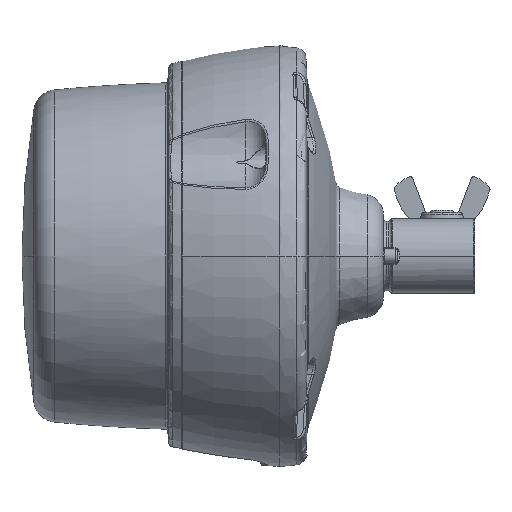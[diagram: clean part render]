
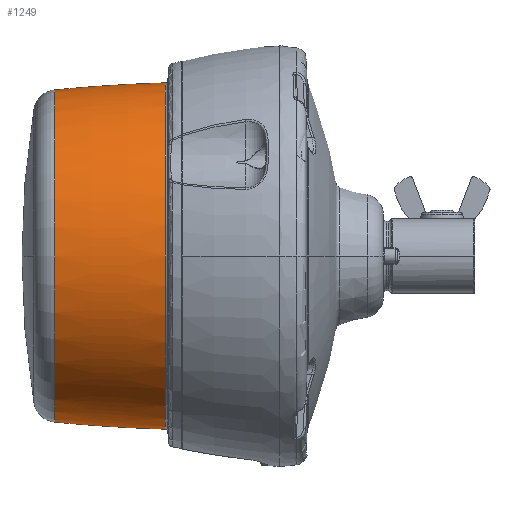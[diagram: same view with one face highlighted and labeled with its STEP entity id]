
A CAD part, left-side view. The second image highlights one B-rep face of the part: STEP entity #1249.
In plain terms, the highlighted toroidal (fillet/blend) face has major radius 533.287 mm and minor radius 600 mm.
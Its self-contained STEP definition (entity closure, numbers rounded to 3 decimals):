
#1249 = ADVANCED_FACE ( 'NONE', ( #44480 ), #20706, .T. ) ;
#1423 = ORIENTED_EDGE ( 'NONE', *, *, #2818, .T. ) ;
#2818 = EDGE_CURVE ( 'NONE', #42144, #48541, #22553, .T. ) ;
#9869 = CARTESIAN_POINT ( 'NONE',  ( 0., -13.197, -533.287 ) ) ;
#10810 = EDGE_CURVE ( 'NONE', #25550, #38830, #50640, .T. ) ;
#12825 = CARTESIAN_POINT ( 'NONE',  ( 0., 46.183, -63.768 ) ) ;
#14059 = CARTESIAN_POINT ( 'NONE',  ( 0., -13.197, 533.287 ) ) ;
#14065 = DIRECTION ( 'NONE',  ( 0., 0., -1. ) ) ;
#15737 = DIRECTION ( 'NONE',  ( 0., 1., 0. ) ) ;
#18047 = CIRCLE ( 'NONE', #40153, 600. ) ;
#18347 = DIRECTION ( 'NONE',  ( 0., 0., 1. ) ) ;
#19164 = CARTESIAN_POINT ( 'NONE',  ( 0., 46.183, 0. ) ) ;
#20706 = TOROIDAL_SURFACE ( 'NONE', #54370, -533.287, 600. ) ;
#21682 = DIRECTION ( 'NONE',  ( 0., 0., -1. ) ) ;
#22553 = CIRCLE ( 'NONE', #50286, 66.475 ) ;
#22893 = EDGE_CURVE ( 'NONE', #38830, #42144, #33310, .T. ) ;
#23461 = DIRECTION ( 'NONE',  ( 0., 0., -1. ) ) ;
#25550 = VERTEX_POINT ( 'NONE', #41704 ) ;
#25589 = DIRECTION ( 'NONE',  ( 0., -1., 0. ) ) ;
#28477 = ORIENTED_EDGE ( 'NONE', *, *, #22893, .T. ) ;
#29106 = ORIENTED_EDGE ( 'NONE', *, *, #42681, .F. ) ;
#29894 = AXIS2_PLACEMENT_3D ( 'NONE', #19164, #48786, #23461 ) ;
#30420 = CARTESIAN_POINT ( 'NONE',  ( 0., 3.71, 66.475 ) ) ;
#33310 = CIRCLE ( 'NONE', #53424, 600. ) ;
#38218 = CARTESIAN_POINT ( 'NONE',  ( 0., 3.71, -66.475 ) ) ;
#38830 = VERTEX_POINT ( 'NONE', #12825 ) ;
#39433 = DIRECTION ( 'NONE',  ( 1., 0., 0. ) ) ;
#40153 = AXIS2_PLACEMENT_3D ( 'NONE', #9869, #39433, #14065 ) ;
#41096 = CARTESIAN_POINT ( 'NONE',  ( 0., 3.71, 0. ) ) ;
#41704 = CARTESIAN_POINT ( 'NONE',  ( 0., 46.183, 63.768 ) ) ;
#42144 = VERTEX_POINT ( 'NONE', #38218 ) ;
#42681 = EDGE_CURVE ( 'NONE', #25550, #48541, #18047, .T. ) ;
#42750 = CARTESIAN_POINT ( 'NONE',  ( 0., -13.197, 0. ) ) ;
#43677 = DIRECTION ( 'NONE',  ( -1., 0., 0. ) ) ;
#44273 = ORIENTED_EDGE ( 'NONE', *, *, #10810, .T. ) ;
#44480 = FACE_OUTER_BOUND ( 'NONE', #53236, .T. ) ;
#45346 = DIRECTION ( 'NONE',  ( 0., 0., -1. ) ) ;
#48541 = VERTEX_POINT ( 'NONE', #30420 ) ;
#48786 = DIRECTION ( 'NONE',  ( 0., -1., 0. ) ) ;
#50286 = AXIS2_PLACEMENT_3D ( 'NONE', #41096, #15737, #45346 ) ;
#50640 = CIRCLE ( 'NONE', #29894, 63.768 ) ;
#53236 = EDGE_LOOP ( 'NONE', ( #29106, #44273, #28477, #1423 ) ) ;
#53424 = AXIS2_PLACEMENT_3D ( 'NONE', #14059, #43677, #18347 ) ;
#54370 = AXIS2_PLACEMENT_3D ( 'NONE', #42750, #25589, #21682 ) ;
